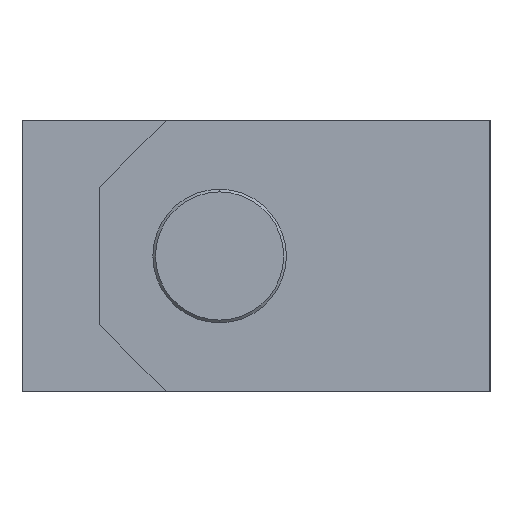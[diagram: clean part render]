
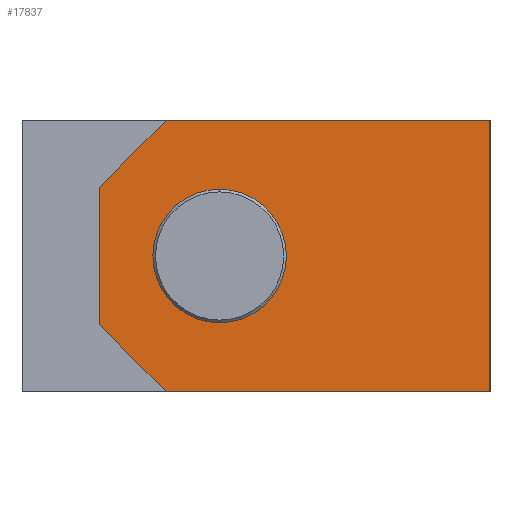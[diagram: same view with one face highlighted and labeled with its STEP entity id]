
A CAD part, left-side view. The second image highlights one B-rep face of the part: STEP entity #17837.
In plain terms, the highlighted planar face has unit normal (-1, 0, 0).
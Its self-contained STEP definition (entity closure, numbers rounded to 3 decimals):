
#377 = CARTESIAN_POINT ( 'NONE',  ( -30., -14.625, 10.15 ) ) ;
#648 = DIRECTION ( 'NONE',  ( 0., 1., 0. ) ) ;
#833 = FACE_BOUND ( 'NONE', #14713, .T. ) ;
#848 = VERTEX_POINT ( 'NONE', #8036 ) ;
#861 = DIRECTION ( 'NONE',  ( -1., 0., 0. ) ) ;
#2377 = EDGE_CURVE ( 'NONE', #21285, #11579, #13150, .T. ) ;
#2733 = DIRECTION ( 'NONE',  ( 0., 0., -1. ) ) ;
#2891 = CARTESIAN_POINT ( 'NONE',  ( -30., 5.625, 0. ) ) ;
#2982 = DIRECTION ( 'NONE',  ( 0., 0.707, -0.707 ) ) ;
#3378 = CARTESIAN_POINT ( 'NONE',  ( -30., 5.625, 5. ) ) ;
#3480 = VERTEX_POINT ( 'NONE', #3378 ) ;
#3998 = EDGE_CURVE ( 'NONE', #12752, #21820, #6757, .T. ) ;
#4747 = CARTESIAN_POINT ( 'NONE',  ( -30., 9.625, -10.15 ) ) ;
#4886 = CARTESIAN_POINT ( 'NONE',  ( -30., 9.625, 10.15 ) ) ;
#4931 = EDGE_CURVE ( 'NONE', #9720, #11579, #20857, .T. ) ;
#6757 = LINE ( 'NONE', #377, #9735 ) ;
#6983 = ORIENTED_EDGE ( 'NONE', *, *, #16781, .F. ) ;
#7429 = DIRECTION ( 'NONE',  ( 0., 0., -1. ) ) ;
#7458 = CARTESIAN_POINT ( 'NONE',  ( -30., -14.625, 10.15 ) ) ;
#7524 = ORIENTED_EDGE ( 'NONE', *, *, #2377, .T. ) ;
#7564 = CARTESIAN_POINT ( 'NONE',  ( -30., 14.625, 5.15 ) ) ;
#8036 = CARTESIAN_POINT ( 'NONE',  ( -30., 5.625, -5. ) ) ;
#8250 = EDGE_CURVE ( 'NONE', #12752, #9720, #21197, .T. ) ;
#8694 = DIRECTION ( 'NONE',  ( 0., 0., 1. ) ) ;
#8969 = CARTESIAN_POINT ( 'NONE',  ( -30., -14.625, 10.15 ) ) ;
#9126 = EDGE_LOOP ( 'NONE', ( #19416, #18056, #22326, #15629, #7524, #11150 ) ) ;
#9348 = CARTESIAN_POINT ( 'NONE',  ( -30., 14.625, -5.15 ) ) ;
#9720 = VERTEX_POINT ( 'NONE', #13049 ) ;
#9735 = VECTOR ( 'NONE', #648, 1000. ) ;
#9849 = EDGE_CURVE ( 'NONE', #12499, #21285, #11625, .T. ) ;
#10261 = DIRECTION ( 'NONE',  ( 0., 1., 0. ) ) ;
#11150 = ORIENTED_EDGE ( 'NONE', *, *, #4931, .F. ) ;
#11579 = VERTEX_POINT ( 'NONE', #4747 ) ;
#11625 = LINE ( 'NONE', #7564, #19537 ) ;
#12495 = DIRECTION ( 'NONE',  ( -1., 0., 0. ) ) ;
#12499 = VERTEX_POINT ( 'NONE', #17615 ) ;
#12752 = VERTEX_POINT ( 'NONE', #7458 ) ;
#12873 = CIRCLE ( 'NONE', #17656, 5. ) ;
#13049 = CARTESIAN_POINT ( 'NONE',  ( -30., -14.625, -10.15 ) ) ;
#13150 = LINE ( 'NONE', #9348, #14953 ) ;
#13647 = EDGE_CURVE ( 'NONE', #3480, #848, #21952, .T. ) ;
#13798 = EDGE_CURVE ( 'NONE', #21820, #12499, #21587, .T. ) ;
#14713 = EDGE_LOOP ( 'NONE', ( #26795, #6983 ) ) ;
#14953 = VECTOR ( 'NONE', #19410, 1000. ) ;
#15088 = FACE_OUTER_BOUND ( 'NONE', #9126, .T. ) ;
#15433 = VECTOR ( 'NONE', #2982, 1000. ) ;
#15629 = ORIENTED_EDGE ( 'NONE', *, *, #9849, .T. ) ;
#16350 = VECTOR ( 'NONE', #25267, 1000. ) ;
#16781 = EDGE_CURVE ( 'NONE', #848, #3480, #12873, .T. ) ;
#17615 = CARTESIAN_POINT ( 'NONE',  ( -30., 14.625, 5.15 ) ) ;
#17656 = AXIS2_PLACEMENT_3D ( 'NONE', #2891, #861, #19195 ) ;
#17837 = ADVANCED_FACE ( 'NONE', ( #833, #15088 ), #23642, .F. ) ;
#17898 = CARTESIAN_POINT ( 'NONE',  ( -30., 9.625, 10.15 ) ) ;
#18056 = ORIENTED_EDGE ( 'NONE', *, *, #3998, .T. ) ;
#18101 = CARTESIAN_POINT ( 'NONE',  ( -30., 14.625, -5.15 ) ) ;
#18885 = CARTESIAN_POINT ( 'NONE',  ( -30., 5.625, 0. ) ) ;
#19195 = DIRECTION ( 'NONE',  ( 0., 0., 1. ) ) ;
#19410 = DIRECTION ( 'NONE',  ( 0., -0.707, -0.707 ) ) ;
#19416 = ORIENTED_EDGE ( 'NONE', *, *, #8250, .F. ) ;
#19537 = VECTOR ( 'NONE', #7429, 1000. ) ;
#20857 = LINE ( 'NONE', #25065, #23937 ) ;
#21197 = LINE ( 'NONE', #8969, #16350 ) ;
#21285 = VERTEX_POINT ( 'NONE', #18101 ) ;
#21587 = LINE ( 'NONE', #4886, #15433 ) ;
#21820 = VERTEX_POINT ( 'NONE', #17898 ) ;
#21952 = CIRCLE ( 'NONE', #25418, 5. ) ;
#22326 = ORIENTED_EDGE ( 'NONE', *, *, #13798, .T. ) ;
#23642 = PLANE ( 'NONE',  #26325 ) ;
#23778 = CARTESIAN_POINT ( 'NONE',  ( -30., 0., 0. ) ) ;
#23937 = VECTOR ( 'NONE', #10261, 1000. ) ;
#25065 = CARTESIAN_POINT ( 'NONE',  ( -30., -14.625, -10.15 ) ) ;
#25267 = DIRECTION ( 'NONE',  ( 0., 0., -1. ) ) ;
#25418 = AXIS2_PLACEMENT_3D ( 'NONE', #18885, #12495, #8694 ) ;
#25816 = DIRECTION ( 'NONE',  ( 1., 0., 0. ) ) ;
#26325 = AXIS2_PLACEMENT_3D ( 'NONE', #23778, #25816, #2733 ) ;
#26795 = ORIENTED_EDGE ( 'NONE', *, *, #13647, .F. ) ;
